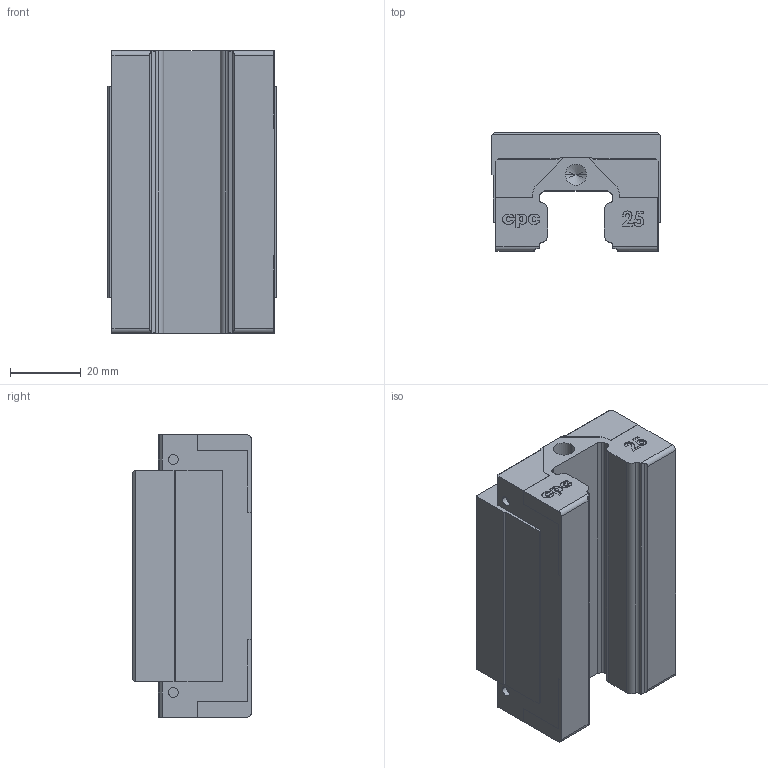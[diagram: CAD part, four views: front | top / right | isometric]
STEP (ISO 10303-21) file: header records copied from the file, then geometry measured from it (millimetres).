
FILE_DESCRIPTION (( 'STEP AP203' ), '1' );
FILE_NAME ('HR25MN.STEP', '2009-08-04T05:25:28', ( 'cpc' ), ( '' ), 'SwSTEP 2.0', 'SolidWorks 2007', '' );
FILE_SCHEMA (( 'CONFIG_CONTROL_DESIGN' ));
Length unit declared in the file: millimetre
Products named in the file (1): HR25MN
Bounding box: 48 x 33.6 x 80.2 mm (x, y, z)
Volume: 93384.2 mm3; surface area: 19156.5 mm2
Topology: 1 solids, 1 shells, 312 faces, 838 edges, 546 vertices
Faces by surface type: plane 146, bspline 86, cylinder 60, cone 20
Entity records: 14051 total; most frequent: CARTESIAN_POINT 6751, ORIENTED_EDGE 1652, DIRECTION 1208, EDGE_CURVE 826, VERTEX_POINT 546, VECTOR 522, LINE 522, AXIS2_PLACEMENT_3D 343
